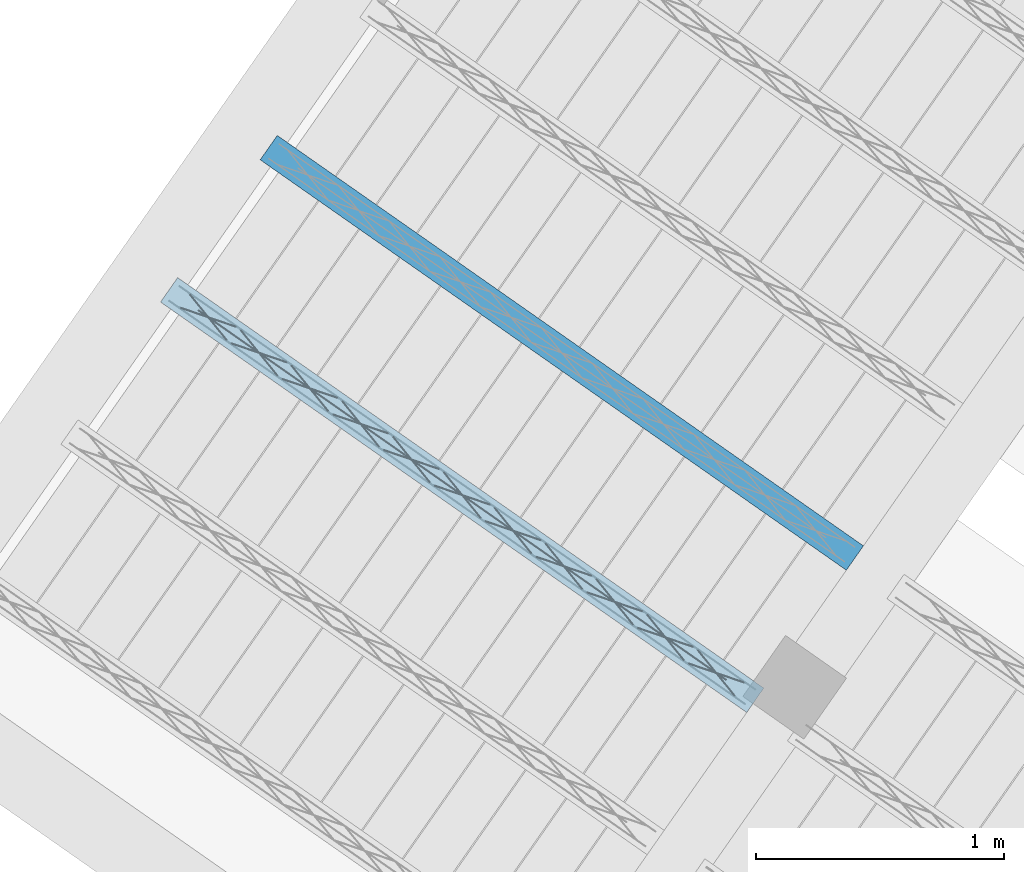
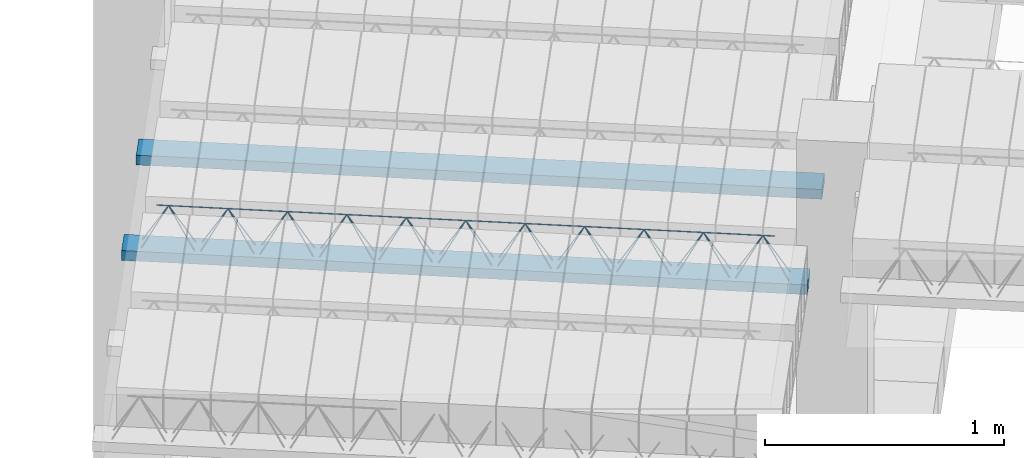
# One storey, part 13 of 80: 2 beams.
"""IFC2X3 building model written with IfcOpenShell, lengths in metres."""

from ifc_helpers import new_model, entity, si_unit, converted_unit, derived_unit, direction, frame, frame_2d, origin, origin_2d_with_axis, place, context, subcontext, project, spatial, rectangle, circle, extrude, material, type_object, element, save


model = new_model("IFC2X3")

# Units and contexts
model_context = context("Model", 3, precision=1e-05, world=origin(), true_north=direction((6.123031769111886e-17, 1.0)))
body_context = subcontext(model_context, "Body", "Model", "MODEL_VIEW")
ifc_project = project(units=[si_unit("LENGTHUNIT", "METRE"), si_unit("AREAUNIT", "SQUARE_METRE"), si_unit("VOLUMEUNIT", "CUBIC_METRE"), converted_unit("PLANEANGLEUNIT", "DEGREE", entity("IfcPlaneAngleMeasure", 0.017453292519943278), si_unit("PLANEANGLEUNIT", "RADIAN"), dimensions=[0, 0, 0, 0, 0, 0, 0]), si_unit("MASSUNIT", "GRAM", prefix="KILO"), derived_unit("MASSDENSITYUNIT", [(si_unit("MASSUNIT", "GRAM", prefix="KILO"), 1), (si_unit("LENGTHUNIT", "METRE"), -3)]), derived_unit("IONCONCENTRATIONUNIT", [(si_unit("MASSUNIT", "GRAM", prefix="KILO"), 1), (si_unit("LENGTHUNIT", "METRE"), -3)]), derived_unit("MOMENTOFINERTIAUNIT", [(si_unit("LENGTHUNIT", "METRE"), 4)]), si_unit("TIMEUNIT", "SECOND"), si_unit("FREQUENCYUNIT", "HERTZ"), si_unit("THERMODYNAMICTEMPERATUREUNIT", "DEGREE_CELSIUS"), derived_unit("THERMALTRANSMITTANCEUNIT", [(si_unit("MASSUNIT", "GRAM", prefix="KILO"), 1), (si_unit("THERMODYNAMICTEMPERATUREUNIT", "KELVIN"), -1), (si_unit("TIMEUNIT", "SECOND"), -3)]), derived_unit("THERMALCONDUCTANCEUNIT", [(si_unit("MASSUNIT", "GRAM", prefix="KILO"), 1), (si_unit("THERMODYNAMICTEMPERATUREUNIT", "KELVIN"), -1), (si_unit("TIMEUNIT", "SECOND"), -3), (si_unit("LENGTHUNIT", "METRE"), 1)]), derived_unit("VOLUMETRICFLOWRATEUNIT", [(si_unit("LENGTHUNIT", "METRE", prefix="DECI"), 3), (si_unit("TIMEUNIT", "SECOND"), -1)]), derived_unit("MASSFLOWRATEUNIT", [(si_unit("MASSUNIT", "GRAM", prefix="KILO"), 1), (si_unit("TIMEUNIT", "SECOND"), -1)]), derived_unit("ROTATIONALFREQUENCYUNIT", [(si_unit("TIMEUNIT", "SECOND"), -1)]), si_unit("ELECTRICCURRENTUNIT", "AMPERE"), si_unit("ELECTRICVOLTAGEUNIT", "VOLT"), si_unit("POWERUNIT", "WATT"), si_unit("FORCEUNIT", "NEWTON", prefix="KILO"), si_unit("ILLUMINANCEUNIT", "LUX"), si_unit("LUMINOUSFLUXUNIT", "LUMEN"), si_unit("LUMINOUSINTENSITYUNIT", "CANDELA"), si_unit("ENERGYUNIT", "JOULE"), derived_unit("USERDEFINED", [(si_unit("MASSUNIT", "GRAM", prefix="KILO"), -1), (si_unit("LENGTHUNIT", "METRE"), -2), (si_unit("TIMEUNIT", "SECOND"), 3), (si_unit("LUMINOUSFLUXUNIT", "LUMEN"), 1)]), derived_unit("USERDEFINED", [(si_unit("MASSUNIT", "GRAM", prefix="KILO"), 1), (si_unit("TIMEUNIT", "SECOND"), -3), (si_unit("LENGTHUNIT", "METRE"), 3), (si_unit("ELECTRICCURRENTUNIT", "AMPERE"), -2)]), derived_unit("SOUNDPOWERUNIT", [(si_unit("MASSUNIT", "GRAM", prefix="KILO"), 1), (si_unit("TIMEUNIT", "SECOND"), -3), (si_unit("LENGTHUNIT", "METRE"), 2)]), derived_unit("SOUNDPRESSUREUNIT", [(si_unit("MASSUNIT", "GRAM", prefix="KILO"), 1), (si_unit("LENGTHUNIT", "METRE"), -1), (si_unit("TIMEUNIT", "SECOND"), -2)]), derived_unit("LINEARVELOCITYUNIT", [(si_unit("LENGTHUNIT", "METRE"), 1), (si_unit("TIMEUNIT", "SECOND"), -1)]), si_unit("PRESSUREUNIT", "PASCAL"), derived_unit("USERDEFINED", [(si_unit("MASSUNIT", "GRAM", prefix="KILO"), 1), (si_unit("LENGTHUNIT", "METRE"), -2), (si_unit("TIMEUNIT", "SECOND"), -2)]), derived_unit("LINEARFORCEUNIT", [(si_unit("MASSUNIT", "GRAM", prefix="KILO"), 1), (si_unit("TIMEUNIT", "SECOND"), -2)]), derived_unit("PLANARFORCEUNIT", [(si_unit("MASSUNIT", "GRAM", prefix="KILO"), 1), (si_unit("LENGTHUNIT", "METRE"), -1), (si_unit("TIMEUNIT", "SECOND"), -2)]), derived_unit("SPECIFICHEATCAPACITYUNIT", [(si_unit("THERMODYNAMICTEMPERATUREUNIT", "KELVIN"), -1), (si_unit("LENGTHUNIT", "METRE"), 2), (si_unit("TIMEUNIT", "SECOND"), -2)]), derived_unit("HEATFLUXDENSITYUNIT", [(si_unit("MASSUNIT", "GRAM", prefix="KILO"), 1), (si_unit("TIMEUNIT", "SECOND"), -3)]), derived_unit("HEATINGVALUEUNIT", [(si_unit("LENGTHUNIT", "METRE"), 2), (si_unit("TIMEUNIT", "SECOND"), -2)]), derived_unit("VAPORPERMEABILITYUNIT", [(si_unit("LENGTHUNIT", "METRE"), -1), (si_unit("TIMEUNIT", "SECOND"), 1)]), derived_unit("DYNAMICVISCOSITYUNIT", [(si_unit("MASSUNIT", "GRAM", prefix="KILO"), 1), (si_unit("TIMEUNIT", "SECOND"), -1), (si_unit("LENGTHUNIT", "METRE"), -1)]), derived_unit("THERMALEXPANSIONCOEFFICIENTUNIT", [(si_unit("THERMODYNAMICTEMPERATUREUNIT", "KELVIN"), -1)]), derived_unit("MODULUSOFELASTICITYUNIT", [(si_unit("MASSUNIT", "GRAM", prefix="KILO"), 1), (si_unit("LENGTHUNIT", "METRE"), -1), (si_unit("TIMEUNIT", "SECOND"), -2)]), derived_unit("ISOTHERMALMOISTURECAPACITYUNIT", [(si_unit("MASSUNIT", "GRAM", prefix="KILO"), -1), (si_unit("LENGTHUNIT", "METRE"), 3)]), derived_unit("MOISTUREDIFFUSIVITYUNIT", [(si_unit("TIMEUNIT", "SECOND"), -1), (si_unit("LENGTHUNIT", "METRE"), 2)]), derived_unit("MASSPERLENGTHUNIT", [(si_unit("MASSUNIT", "GRAM", prefix="KILO"), 1), (si_unit("LENGTHUNIT", "METRE"), -1)]), derived_unit("THERMALRESISTANCEUNIT", [(si_unit("MASSUNIT", "GRAM", prefix="KILO"), -1), (si_unit("TIMEUNIT", "SECOND"), 3), (si_unit("THERMODYNAMICTEMPERATUREUNIT", "KELVIN"), 1)]), derived_unit("ACCELERATIONUNIT", [(si_unit("LENGTHUNIT", "METRE"), 1), (si_unit("TIMEUNIT", "SECOND"), -2)]), derived_unit("ANGULARVELOCITYUNIT", [(si_unit("TIMEUNIT", "SECOND"), -1), (si_unit("PLANEANGLEUNIT", "RADIAN"), 1)]), derived_unit("LINEARSTIFFNESSUNIT", [(si_unit("MASSUNIT", "GRAM", prefix="KILO"), 1), (si_unit("TIMEUNIT", "SECOND"), -2)]), derived_unit("WARPINGCONSTANTUNIT", [(si_unit("LENGTHUNIT", "METRE"), 6)]), derived_unit("LINEARMOMENTUNIT", [(si_unit("MASSUNIT", "GRAM", prefix="KILO"), 1), (si_unit("LENGTHUNIT", "METRE"), 1), (si_unit("TIMEUNIT", "SECOND"), -2)]), derived_unit("TORQUEUNIT", [(si_unit("MASSUNIT", "GRAM", prefix="KILO"), 1), (si_unit("LENGTHUNIT", "METRE"), 2), (si_unit("TIMEUNIT", "SECOND"), -2)])], contexts=[model_context])

# Site, building, storey
site_placement = place(None, origin())
site = spatial("IfcSite", under=ifc_project, at=site_placement, Name="Default", CompositionType="ELEMENT")
building_placement = place(site_placement, origin())
building = spatial("IfcBuilding", under=site, at=building_placement, CompositionType="ELEMENT")
storey_placement = place(building_placement, frame((0.0, 0.0, 95.94)))
storey = spatial("IfcBuildingStorey", under=building, at=storey_placement, Name="PB", CompositionType="ELEMENT", Elevation=95.94)

# Beams
beam_type = type_object("IfcBeamType", Name="Vigueta 3 (Paño 2) (Mf = 10.32)", PredefinedType="JOIST")
beam_1_placement = place(storey_placement, origin())
element("IfcBeam", 1, at=beam_1_placement, inside=storey, type_object=beam_type, Name="Vigueta 3 (Paño 2) (Mf = 10.32)", ObjectType="Mf = 10.32", context=body_context, shape_type="SweptSolid", body=[
    extrude(rectangle(XDim=2.884708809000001, YDim=0.11999999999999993, at=frame_2d((0.0, -2.0122792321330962e-16), x_axis=(1.0, 0.0))), frame((0.804309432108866, 3.0384460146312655, 2.82), z_axis=(0.0, 0.0, 1.0), x_axis=(0.8191520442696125, -0.5735764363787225, 0.0)), (0.0, 0.0, 1.0), 0.04999999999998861),
    extrude(circle(Radius=0.0025, at=origin_2d_with_axis()), frame((-0.37818722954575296, 3.822491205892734, 2.8449999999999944), z_axis=(0.8191520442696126, -0.5735764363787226, 0.0), x_axis=(-0.5735764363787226, -0.8191520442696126, 0.0)), (0.0, 0.0, 1.0), 2.836708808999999),
    extrude(circle(Radius=0.0025, at=origin_2d_with_axis()), frame((-0.2605882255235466, 3.7840953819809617, 3.069999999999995), z_axis=(0.8191520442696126, -0.5735764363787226, 0.0), x_axis=(-0.5735764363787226, -0.8191520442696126, 0.0)), (0.0, 0.0, 1.0), 2.5999999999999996),
    extrude(circle(Radius=0.0025, at=origin_2d_with_axis()), frame((1.9099947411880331, 2.220288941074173, 2.8449999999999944), z_axis=(-0.3145304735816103, 0.389334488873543, 0.8657304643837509), x_axis=(-0.7778747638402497, -0.6284193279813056, 0.0)), (0.0, 0.0, 1.0), 0.2598961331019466),
    extrude(circle(Radius=0.0025, at=origin_2d_with_axis()), frame((1.705206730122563, 2.3636830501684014, 2.8449999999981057), z_axis=(0.47343050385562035, -0.1624017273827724, 0.8657304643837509), x_axis=(-0.3244721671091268, -0.9458952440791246, 0.0)), (0.0, 0.0, 1.0), 0.25989613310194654),
    extrude(circle(Radius=0.0025, at=origin_2d_with_axis()), frame((1.70520673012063, 2.3636830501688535, 2.8449999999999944), z_axis=(-0.3145304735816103, 0.389334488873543, 0.8657304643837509), x_axis=(-0.7778747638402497, -0.6284193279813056, 0.0)), (0.0, 0.0, 1.0), 0.2598961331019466),
    extrude(circle(Radius=0.0025, at=origin_2d_with_axis()), frame((1.50041871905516, 2.507077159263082, 2.8449999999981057), z_axis=(0.47343050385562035, -0.1624017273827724, 0.8657304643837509), x_axis=(-0.3244721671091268, -0.9458952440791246, 0.0)), (0.0, 0.0, 1.0), 0.25989613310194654),
    extrude(circle(Radius=0.0025, at=origin_2d_with_axis()), frame((1.5004187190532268, 2.507077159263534, 2.8449999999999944), z_axis=(-0.3145304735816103, 0.389334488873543, 0.8657304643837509), x_axis=(-0.7778747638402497, -0.6284193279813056, 0.0)), (0.0, 0.0, 1.0), 0.2598961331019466),
    extrude(circle(Radius=0.0025, at=origin_2d_with_axis()), frame((1.295630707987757, 2.650471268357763, 2.8449999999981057), z_axis=(0.47343050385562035, -0.1624017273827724, 0.8657304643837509), x_axis=(-0.3244721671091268, -0.9458952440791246, 0.0)), (0.0, 0.0, 1.0), 0.25989613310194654),
    extrude(circle(Radius=0.0025, at=origin_2d_with_axis()), frame((1.2956307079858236, 2.650471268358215, 2.8449999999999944), z_axis=(-0.3145304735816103, 0.389334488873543, 0.8657304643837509), x_axis=(-0.7778747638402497, -0.6284193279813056, 0.0)), (0.0, 0.0, 1.0), 0.2598961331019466),
    extrude(circle(Radius=0.0025, at=origin_2d_with_axis()), frame((1.0908426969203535, 2.793865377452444, 2.8449999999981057), z_axis=(0.47343050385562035, -0.1624017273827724, 0.8657304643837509), x_axis=(-0.3244721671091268, -0.9458952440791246, 0.0)), (0.0, 0.0, 1.0), 0.25989613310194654),
    extrude(circle(Radius=0.0025, at=origin_2d_with_axis()), frame((1.0908426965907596, 2.7938653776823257, 2.8449999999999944), z_axis=(-0.3145304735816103, 0.389334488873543, 0.8657304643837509), x_axis=(-0.7778747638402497, -0.6284193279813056, 0.0)), (0.0, 0.0, 1.0), 0.2598961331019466),
    extrude(circle(Radius=0.0025, at=origin_2d_with_axis()), frame((0.8860546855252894, 2.937259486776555, 2.8449999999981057), z_axis=(0.47343050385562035, -0.1624017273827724, 0.8657304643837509), x_axis=(-0.3244721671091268, -0.9458952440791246, 0.0)), (0.0, 0.0, 1.0), 0.25989613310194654),
    extrude(circle(Radius=0.0025, at=origin_2d_with_axis()), frame((0.8860546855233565, 2.9372594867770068, 2.8449999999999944), z_axis=(-0.3145304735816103, 0.389334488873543, 0.8657304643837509), x_axis=(-0.7778747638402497, -0.6284193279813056, 0.0)), (0.0, 0.0, 1.0), 0.2598961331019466),
    extrude(circle(Radius=0.0025, at=origin_2d_with_axis()), frame((0.6812666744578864, 3.0806535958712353, 2.8449999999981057), z_axis=(0.47343050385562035, -0.1624017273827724, 0.8657304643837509), x_axis=(-0.3244721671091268, -0.9458952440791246, 0.0)), (0.0, 0.0, 1.0), 0.25989613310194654),
    extrude(circle(Radius=0.0025, at=origin_2d_with_axis()), frame((0.6812666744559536, 3.0806535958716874, 2.8449999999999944), z_axis=(-0.3145304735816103, 0.389334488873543, 0.8657304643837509), x_axis=(-0.7778747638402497, -0.6284193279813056, 0.0)), (0.0, 0.0, 1.0), 0.2598961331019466),
    extrude(circle(Radius=0.0025, at=origin_2d_with_axis()), frame((0.47647866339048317, 3.2240477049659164, 2.8449999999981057), z_axis=(0.47343050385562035, -0.1624017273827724, 0.8657304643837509), x_axis=(-0.3244721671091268, -0.9458952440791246, 0.0)), (0.0, 0.0, 1.0), 0.25989613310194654),
    extrude(circle(Radius=0.0025, at=origin_2d_with_axis()), frame((0.4764786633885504, 3.2240477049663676, 2.8449999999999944), z_axis=(-0.3145304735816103, 0.389334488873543, 0.8657304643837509), x_axis=(-0.7778747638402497, -0.6284193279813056, 0.0)), (0.0, 0.0, 1.0), 0.2598961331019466),
    extrude(circle(Radius=0.0025, at=origin_2d_with_axis()), frame((0.27169065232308, 3.3674418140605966, 2.8449999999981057), z_axis=(0.47343050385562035, -0.1624017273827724, 0.8657304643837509), x_axis=(-0.3244721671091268, -0.9458952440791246, 0.0)), (0.0, 0.0, 1.0), 0.25989613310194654),
    extrude(circle(Radius=0.0025, at=origin_2d_with_axis()), frame((0.271690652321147, 3.3674418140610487, 2.8449999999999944), z_axis=(-0.3145304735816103, 0.389334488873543, 0.8657304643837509), x_axis=(-0.7778747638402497, -0.6284193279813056, 0.0)), (0.0, 0.0, 1.0), 0.2598961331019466),
    extrude(circle(Radius=0.0025, at=origin_2d_with_axis()), frame((0.06690264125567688, 3.5108359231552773, 2.8449999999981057), z_axis=(0.47343050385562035, -0.1624017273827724, 0.8657304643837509), x_axis=(-0.3244721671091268, -0.9458952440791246, 0.0)), (0.0, 0.0, 1.0), 0.25989613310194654),
    extrude(circle(Radius=0.0025, at=origin_2d_with_axis()), frame((0.06690264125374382, 3.5108359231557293, 2.8449999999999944), z_axis=(-0.3145304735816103, 0.389334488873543, 0.8657304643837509), x_axis=(-0.7778747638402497, -0.6284193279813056, 0.0)), (0.0, 0.0, 1.0), 0.2598961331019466),
    extrude(circle(Radius=0.0025, at=origin_2d_with_axis()), frame((-0.13788536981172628, 3.6542300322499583, 2.8449999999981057), z_axis=(0.47343050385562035, -0.1624017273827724, 0.8657304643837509), x_axis=(-0.3244721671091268, -0.9458952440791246, 0.0)), (0.0, 0.0, 1.0), 0.25989613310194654),
    extrude(circle(Radius=0.0025, at=origin_2d_with_axis()), frame((-0.13788536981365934, 3.65423003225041, 2.8449999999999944), z_axis=(-0.3145304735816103, 0.389334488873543, 0.8657304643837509), x_axis=(-0.7778747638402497, -0.6284193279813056, 0.0)), (0.0, 0.0, 1.0), 0.2598961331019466),
    extrude(circle(Radius=0.0025, at=origin_2d_with_axis()), frame((-0.3426733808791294, 3.7976241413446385, 2.8449999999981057), z_axis=(0.47343050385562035, -0.1624017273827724, 0.8657304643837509), x_axis=(-0.3244721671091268, -0.9458952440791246, 0.0)), (0.0, 0.0, 1.0), 0.25989613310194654),
    extrude(circle(Radius=0.0025, at=origin_2d_with_axis()), frame((-0.33688972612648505, 3.8814701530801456, 2.8449999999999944), z_axis=(0.8191520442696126, -0.5735764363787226, 0.0), x_axis=(-0.5735764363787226, -0.8191520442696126, 0.0)), (0.0, 0.0, 1.0), 2.836708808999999),
    extrude(circle(Radius=0.0025, at=origin_2d_with_axis()), frame((1.951292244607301, 2.279267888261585, 2.8449999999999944), z_axis=(-0.47343050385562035, 0.1624017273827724, 0.8657304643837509), x_axis=(-0.3244721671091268, -0.9458952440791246, 0.0)), (0.0, 0.0, 1.0), 0.25989613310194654),
    extrude(circle(Radius=0.0025, at=origin_2d_with_axis()), frame((1.7465042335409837, 2.4226619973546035, 2.8449999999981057), z_axis=(0.3145304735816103, -0.389334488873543, 0.8657304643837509), x_axis=(-0.7778747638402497, -0.6284193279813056, 0.0)), (0.0, 0.0, 1.0), 0.2598961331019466),
    extrude(circle(Radius=0.0025, at=origin_2d_with_axis()), frame((1.746504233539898, 2.4226619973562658, 2.8449999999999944), z_axis=(-0.47343050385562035, 0.1624017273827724, 0.8657304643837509), x_axis=(-0.3244721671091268, -0.9458952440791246, 0.0)), (0.0, 0.0, 1.0), 0.25989613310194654),
    extrude(circle(Radius=0.0025, at=origin_2d_with_axis()), frame((1.5417162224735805, 2.566056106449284, 2.8449999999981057), z_axis=(0.3145304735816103, -0.389334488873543, 0.8657304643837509), x_axis=(-0.7778747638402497, -0.6284193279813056, 0.0)), (0.0, 0.0, 1.0), 0.2598961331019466),
    extrude(circle(Radius=0.0025, at=origin_2d_with_axis()), frame((1.5417162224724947, 2.5660561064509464, 2.8449999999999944), z_axis=(-0.47343050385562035, 0.1624017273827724, 0.8657304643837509), x_axis=(-0.3244721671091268, -0.9458952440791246, 0.0)), (0.0, 0.0, 1.0), 0.25989613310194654),
    extrude(circle(Radius=0.0025, at=origin_2d_with_axis()), frame((1.3369282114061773, 2.709450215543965, 2.8449999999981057), z_axis=(0.3145304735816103, -0.389334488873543, 0.8657304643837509), x_axis=(-0.7778747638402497, -0.6284193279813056, 0.0)), (0.0, 0.0, 1.0), 0.2598961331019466),
    extrude(circle(Radius=0.0025, at=origin_2d_with_axis()), frame((1.3369282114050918, 2.709450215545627, 2.8449999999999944), z_axis=(-0.47343050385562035, 0.1624017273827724, 0.8657304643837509), x_axis=(-0.3244721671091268, -0.9458952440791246, 0.0)), (0.0, 0.0, 1.0), 0.25989613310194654),
    extrude(circle(Radius=0.0025, at=origin_2d_with_axis()), frame((1.1321402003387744, 2.852844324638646, 2.8449999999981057), z_axis=(0.3145304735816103, -0.389334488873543, 0.8657304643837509), x_axis=(-0.7778747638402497, -0.6284193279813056, 0.0)), (0.0, 0.0, 1.0), 0.2598961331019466),
    extrude(circle(Radius=0.0025, at=origin_2d_with_axis()), frame((1.1321402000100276, 2.8528443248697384, 2.8449999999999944), z_axis=(-0.47343050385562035, 0.1624017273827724, 0.8657304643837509), x_axis=(-0.3244721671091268, -0.9458952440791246, 0.0)), (0.0, 0.0, 1.0), 0.25989613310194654),
    extrude(circle(Radius=0.0025, at=origin_2d_with_axis()), frame((0.9273521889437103, 2.996238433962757, 2.8449999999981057), z_axis=(0.3145304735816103, -0.389334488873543, 0.8657304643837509), x_axis=(-0.7778747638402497, -0.6284193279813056, 0.0)), (0.0, 0.0, 1.0), 0.2598961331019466),
    extrude(circle(Radius=0.0025, at=origin_2d_with_axis()), frame((0.9273521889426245, 2.996238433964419, 2.8449999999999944), z_axis=(-0.47343050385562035, 0.1624017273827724, 0.8657304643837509), x_axis=(-0.3244721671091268, -0.9458952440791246, 0.0)), (0.0, 0.0, 1.0), 0.25989613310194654),
    extrude(circle(Radius=0.0025, at=origin_2d_with_axis()), frame((0.7225641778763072, 3.139632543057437, 2.8449999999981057), z_axis=(0.3145304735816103, -0.389334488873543, 0.8657304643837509), x_axis=(-0.7778747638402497, -0.6284193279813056, 0.0)), (0.0, 0.0, 1.0), 0.2598961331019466),
    extrude(circle(Radius=0.0025, at=origin_2d_with_axis()), frame((0.7225641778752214, 3.1396325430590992, 2.8449999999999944), z_axis=(-0.47343050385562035, 0.1624017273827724, 0.8657304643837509), x_axis=(-0.3244721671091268, -0.9458952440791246, 0.0)), (0.0, 0.0, 1.0), 0.25989613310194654),
    extrude(circle(Radius=0.0025, at=origin_2d_with_axis()), frame((0.517776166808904, 3.283026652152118, 2.8449999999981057), z_axis=(0.3145304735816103, -0.389334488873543, 0.8657304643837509), x_axis=(-0.7778747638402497, -0.6284193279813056, 0.0)), (0.0, 0.0, 1.0), 0.2598961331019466),
    extrude(circle(Radius=0.0025, at=origin_2d_with_axis()), frame((0.5177761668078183, 3.2830266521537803, 2.8449999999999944), z_axis=(-0.47343050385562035, 0.1624017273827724, 0.8657304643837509), x_axis=(-0.3244721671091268, -0.9458952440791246, 0.0)), (0.0, 0.0, 1.0), 0.25989613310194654),
    extrude(circle(Radius=0.0025, at=origin_2d_with_axis()), frame((0.31298815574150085, 3.4264207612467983, 2.8449999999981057), z_axis=(0.3145304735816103, -0.389334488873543, 0.8657304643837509), x_axis=(-0.7778747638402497, -0.6284193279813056, 0.0)), (0.0, 0.0, 1.0), 0.2598961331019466),
    extrude(circle(Radius=0.0025, at=origin_2d_with_axis()), frame((0.3129881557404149, 3.426420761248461, 2.8449999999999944), z_axis=(-0.47343050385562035, 0.1624017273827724, 0.8657304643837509), x_axis=(-0.3244721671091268, -0.9458952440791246, 0.0)), (0.0, 0.0, 1.0), 0.25989613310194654),
    extrude(circle(Radius=0.0025, at=origin_2d_with_axis()), frame((0.10820014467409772, 3.5698148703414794, 2.8449999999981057), z_axis=(0.3145304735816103, -0.389334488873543, 0.8657304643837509), x_axis=(-0.7778747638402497, -0.6284193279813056, 0.0)), (0.0, 0.0, 1.0), 0.2598961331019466),
    extrude(circle(Radius=0.0025, at=origin_2d_with_axis()), frame((0.10820014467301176, 3.5698148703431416, 2.8449999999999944), z_axis=(-0.47343050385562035, 0.1624017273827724, 0.8657304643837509), x_axis=(-0.3244721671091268, -0.9458952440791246, 0.0)), (0.0, 0.0, 1.0), 0.25989613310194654),
    extrude(circle(Radius=0.0025, at=origin_2d_with_axis()), frame((-0.09658786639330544, 3.71320897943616, 2.8449999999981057), z_axis=(0.3145304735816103, -0.389334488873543, 0.8657304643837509), x_axis=(-0.7778747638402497, -0.6284193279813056, 0.0)), (0.0, 0.0, 1.0), 0.2598961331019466),
    extrude(circle(Radius=0.0025, at=origin_2d_with_axis()), frame((-0.09658786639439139, 3.713208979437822, 2.8449999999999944), z_axis=(-0.47343050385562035, 0.1624017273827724, 0.8657304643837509), x_axis=(-0.3244721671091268, -0.9458952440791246, 0.0)), (0.0, 0.0, 1.0), 0.25989613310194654),
    extrude(circle(Radius=0.0025, at=origin_2d_with_axis()), frame((-0.30137587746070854, 3.85660308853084, 2.8449999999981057), z_axis=(0.3145304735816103, -0.389334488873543, 0.8657304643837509), x_axis=(-0.7778747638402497, -0.6284193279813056, 0.0)), (0.0, 0.0, 1.0), 0.2598961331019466),
])
ifc_material = material(Name="Hormigón armado")
beam_2_placement = place(storey_placement, origin())
element("IfcBeam", 2, at=beam_2_placement, inside=storey, material=ifc_material, Name="237966", context=body_context, shape_type="SweptSolid", body=[
    extrude(rectangle(XDim=0.04999999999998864, YDim=0.12000000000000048, at=frame_2d((1.7324683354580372e-14, 2.0816681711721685e-17), x_axis=(1.0, 0.0))), frame((0.024334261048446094, 4.43913272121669, 2.8450000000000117), z_axis=(0.819152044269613, -0.5735764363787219, 0.0), x_axis=(0.0, 0.0, -1.0)), (0.0, 0.0, 1.0), 2.8846735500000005),
])

save(model, "model.ifc")
